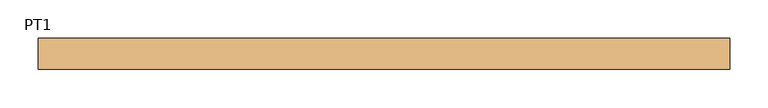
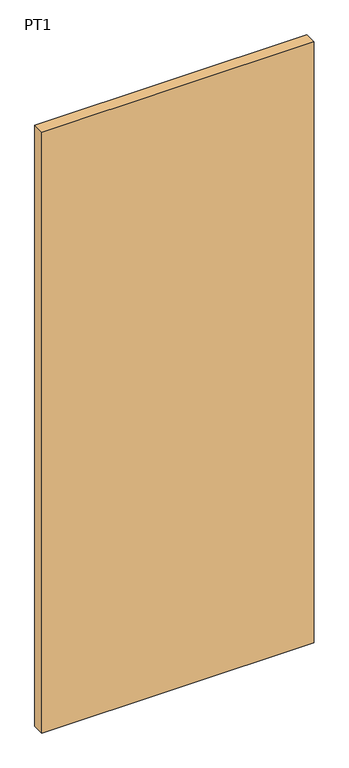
"""IFC4 building model written with IfcOpenShell, lengths in millimetres: door geometry, 営_パーティションドア : PT1."""

import ifcopenshell
import ifcopenshell.guid

model = None  # the IFC model being written
_history = None  # IfcOwnerHistory: only IFC2X3 demands one
_inside = {}  # id of a spatial element -> (the spatial element, [elements in it])
_under = {}  # id of a project, library or spatial element -> (it, [spatial elements below it])
_declared = {}  # id of a project -> (the project, [libraries it declares])
_typed = {}  # id of a type object -> (the type object, [elements of that type])
_made_of = {}  # id of a material, layer set ... -> (it, [elements and type objects made of it])


def new_model(schema):
    """Start an empty IFC model of exactly this schema.

    Asked for "IFC4X3", IfcOpenShell would pick the latest addendum, in which some entities
    have other attributes; the version numbers below select the first issue.
    IFC2X3 requires an IfcOwnerHistory on every rooted entity: one is made here for all.
    """
    global model, _history
    if schema == "IFC4X3":
        model = ifcopenshell.file(schema_version=(4, 3, 0, 0))
    else:
        model = ifcopenshell.file(schema=schema)
    _inside.clear()
    _under.clear()
    _declared.clear()
    _typed.clear()
    _made_of.clear()
    _history = None
    if model.schema == "IFC2X3":
        org = make("IfcOrganization", Name="unknown")
        user = make(
            "IfcPersonAndOrganization",
            ThePerson=make("IfcPerson", FamilyName="unknown"),
            TheOrganization=org,
        )
        app = make(
            "IfcApplication",
            ApplicationDeveloper=org,
            Version="unknown",
            ApplicationFullName="unknown",
            ApplicationIdentifier="unknown",
        )
        _history = make(
            "IfcOwnerHistory",
            OwningUser=user,
            OwningApplication=app,
            ChangeAction="ADDED",
            CreationDate=0,
        )
    return model


def make(cls, **values):
    """One entity of the class cls with the attributes given. An attribute that is None is left unset."""
    return model.create_entity(
        cls, **{name: value for name, value in values.items() if value is not None}
    )


def rooted(cls, **values):
    """An entity with a GlobalId (a new one), such as an element, a storey or a relation."""
    return make(cls, GlobalId=ifcopenshell.guid.new(), OwnerHistory=_history, **values)


def si_unit(unit_type, name, prefix=None):
    """IfcSIUnit, for example si_unit("LENGTHUNIT", "METRE", prefix="MILLI")."""
    return make("IfcSIUnit", UnitType=unit_type, Prefix=prefix, Name=name)


def assignment(units):
    """IfcUnitAssignment: the units of a project."""
    return None if units is None else make("IfcUnitAssignment", Units=units)


def point(xyz):
    """IfcCartesianPoint."""
    return None if xyz is None else make("IfcCartesianPoint", Coordinates=xyz)


def direction(xyz):
    """IfcDirection."""
    return None if xyz is None else make("IfcDirection", DirectionRatios=xyz)


def frame(location, z_axis=None, x_axis=None):
    """IfcAxis2Placement3D, a coordinate frame: its origin and axes. An axis left out is left unset."""
    return make(
        "IfcAxis2Placement3D",
        Location=point(location),
        Axis=direction(z_axis),
        RefDirection=direction(x_axis),
    )


def origin():
    """The frame at (0, 0, 0) with its axes left unset."""
    return frame((0.0, 0.0, 0.0))


def origin_with_axes():
    """The frame at (0, 0, 0) with the z axis (0, 0, 1) and the x axis (1, 0, 0) written out."""
    return frame((0.0, 0.0, 0.0), z_axis=(0.0, 0.0, 1.0), x_axis=(1.0, 0.0, 0.0))


def place(relative_to, where):
    """IfcLocalPlacement: puts the frame where relative to a parent placement (None: the world)."""
    return make(
        "IfcLocalPlacement", PlacementRelTo=relative_to, RelativePlacement=where
    )


def context(
    kind, dimensions, precision=None, world=None, true_north=None, identifier=None
):
    """IfcGeometricRepresentationContext, for example the 3D "Model" context."""
    return make(
        "IfcGeometricRepresentationContext",
        ContextIdentifier=identifier,
        ContextType=kind,
        CoordinateSpaceDimension=dimensions,
        Precision=precision,
        WorldCoordinateSystem=world,
        TrueNorth=true_north,
    )


def project(units=None, contexts=None):
    """IfcProject with its units and contexts."""
    return rooted(
        "IfcProject",
        Name="project",
        RepresentationContexts=contexts,
        UnitsInContext=assignment(units),
    )


def spatial(cls, under=None, at=None, **own):
    """A site, building, storey or space (cls), placed at a placement, below another one or the project."""
    s = rooted(cls, ObjectPlacement=at, **own)
    if under is not None:
        _under.setdefault(under.id(), (under, []))[1].append(s)
    return s


def polyline(points):
    """IfcPolyline through the points."""
    return make("IfcPolyline", Points=[point(p) for p in points])


def outline(outer, holes=None, kind="AREA"):
    """IfcArbitraryClosedProfileDef: a profile drawn as a closed curve; with holes, ...WithVoids."""
    if holes is None:
        return make("IfcArbitraryClosedProfileDef", ProfileType=kind, OuterCurve=outer)
    return make(
        "IfcArbitraryProfileDefWithVoids",
        ProfileType=kind,
        OuterCurve=outer,
        InnerCurves=holes,
    )


def extrude(swept, where, along, depth):
    """IfcExtrudedAreaSolid: the profile swept, set in the frame where, extruded along a direction by depth."""
    return make(
        "IfcExtrudedAreaSolid",
        SweptArea=swept,
        Position=where,
        ExtrudedDirection=direction(along),
        Depth=depth,
    )


def shape(context_of_items, identifier, shape_type, items):
    """IfcShapeRepresentation: the items that make up one representation, for example the "Body"."""
    return make(
        "IfcShapeRepresentation",
        ContextOfItems=context_of_items,
        RepresentationIdentifier=identifier,
        RepresentationType=shape_type,
        Items=items,
    )


def source(mapping_origin, context_of_items, identifier, shape_type, items):
    """IfcRepresentationMap: a shape defined once, which mapped items show again and again."""
    return make(
        "IfcRepresentationMap",
        MappingOrigin=mapping_origin,
        MappedRepresentation=shape(context_of_items, identifier, shape_type, items),
    )


def transform(
    local_origin,
    x_axis=None,
    y_axis=None,
    z_axis=None,
    scale=None,
    scale2=None,
    scale3=None,
    uniform=True,
):
    """IfcCartesianTransformationOperator3D, or its non-uniform kind. x_axis, y_axis, z_axis: its Axis1, 2, 3."""
    if uniform:
        return make(
            "IfcCartesianTransformationOperator3D",
            Axis1=direction(x_axis),
            Axis2=direction(y_axis),
            LocalOrigin=point(local_origin),
            Scale=scale,
            Axis3=direction(z_axis),
        )
    return make(
        "IfcCartesianTransformationOperator3DnonUniform",
        Axis1=direction(x_axis),
        Axis2=direction(y_axis),
        LocalOrigin=point(local_origin),
        Scale=scale,
        Axis3=direction(z_axis),
        Scale2=scale2,
        Scale3=scale3,
    )


def mapped(mapping_source, mapping_target):
    """IfcMappedItem: shows the shape of a source again, moved by a transform."""
    return make(
        "IfcMappedItem", MappingSource=mapping_source, MappingTarget=mapping_target
    )


def made_of(thing, what):
    """Note that an element or type object is made of a material, layer set ...; save() writes the relation."""
    if what is not None:
        _made_of.setdefault(what.id(), (what, []))[1].append(thing)
    return thing


def element(
    cls,
    number,
    at=None,
    inside=None,
    cuts=None,
    type_object=None,
    material=None,
    context=None,
    identifier="Body",
    shape_type=None,
    held_by="IfcProductDefinitionShape",
    body=None,
    shapes=None,
    **own,
):
    """One element of the class cls, such as IfcWall. Its Tag is "e" and its number.

    at: its placement. inside: the storey or other place that contains it. cuts: it is an
    opening in that element (IfcRelVoidsElement). A single representation is given by context,
    identifier, shape_type and body (its items); several are given by shapes. held_by: the class
    of the entity that holds the representations. save() writes the other relations.
    """
    e = rooted(cls, Tag="e%d" % number, ObjectPlacement=at, **own)
    if body is not None:
        shapes = [shape(context, identifier, shape_type, body)]
    if shapes is not None:
        e.Representation = make(held_by, Representations=shapes)
    if inside is not None:
        _inside.setdefault(inside.id(), (inside, []))[1].append(e)
    if cuts is not None:
        rooted(
            "IfcRelVoidsElement", RelatingBuildingElement=cuts, RelatedOpeningElement=e
        )
    if type_object is not None:
        _typed.setdefault(type_object.id(), (type_object, []))[1].append(e)
    return made_of(e, material)


def aggregate(whole, parts):
    """IfcRelAggregates: a whole, such as a stair, and the parts it consists of."""
    return rooted("IfcRelAggregates", RelatingObject=whole, RelatedObjects=parts)


def save(model, path):
    """Write the relations noted so far, then the file.

    IfcRelAggregates (storeys below a building ...), IfcRelContainedInSpatialStructure (elements
    in a storey), IfcRelDefinesByType, IfcRelAssociatesMaterial and IfcRelDeclares: one each for
    every whole, place, type object, material and project.
    """
    for whole, parts in _under.values():
        aggregate(whole, parts)
    for where, things in _inside.values():
        rooted(
            "IfcRelContainedInSpatialStructure",
            RelatedElements=things,
            RelatingStructure=where,
        )
    for kind, things in _typed.values():
        rooted("IfcRelDefinesByType", RelatedObjects=things, RelatingType=kind)
    for what, things in _made_of.values():
        rooted("IfcRelAssociatesMaterial", RelatedObjects=things, RelatingMaterial=what)
    for by, libraries in _declared.values():
        rooted("IfcRelDeclares", RelatingContext=by, RelatedDefinitions=libraries)
    model.write(path)


def pt1_1e1990d0(model_context):
    return source(origin(), model_context, "Body", "SweptSolid", [
        extrude(outline(polyline([(450.0, -20.0), (-450.0, -20.0), (-450.0, 20.0), (450.0, 20.0), (450.0, -20.0)])), origin_with_axes(), (0.0, 0.0, 1.0), 2100.0),
    ])


if __name__ == "__main__":
    model = new_model("IFC4")
    model_context = context("Model", 3, world=origin())
    ifc_project = project(units=[si_unit("LENGTHUNIT", "METRE", prefix="MILLI")], contexts=[model_context])
    site = spatial("IfcSite", under=ifc_project)
    building = spatial("IfcBuilding", under=site)
    placement = place(None, origin())
    pt1_shape = pt1_1e1990d0(model_context)
    element("IfcDoor", 1, ObjectType="営_パーティションドア : PT1", at=placement, inside=building, context=model_context, shape_type="MappedRepresentation", body=[
        mapped(pt1_shape, transform((0.0, 0.0, 0.0), x_axis=(1.0, 0.0, 0.0), y_axis=(0.0, 1.0, 0.0), z_axis=(0.0, 0.0, 1.0))),
    ])
    save(model, "model.ifc")
